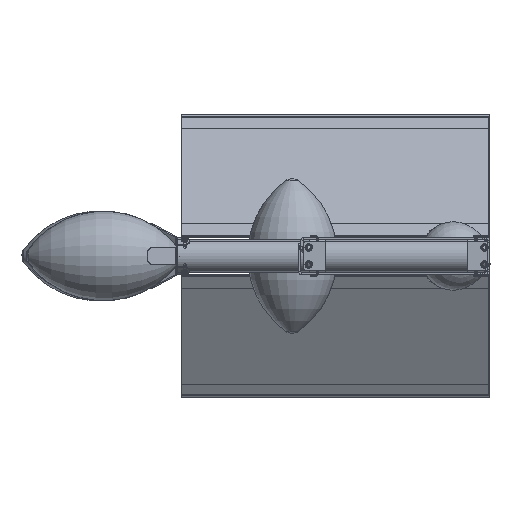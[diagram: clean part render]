
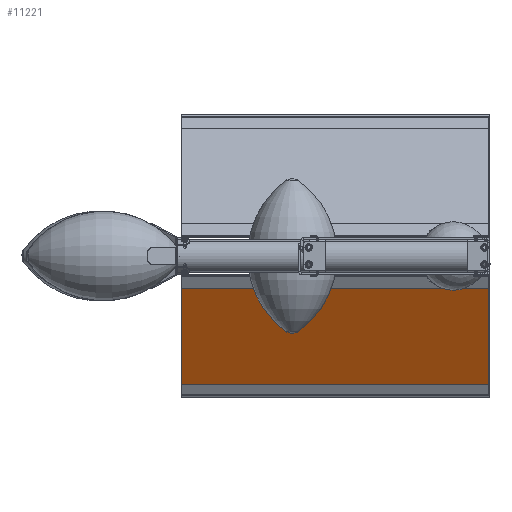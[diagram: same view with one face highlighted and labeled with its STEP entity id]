
A CAD part, left-side view. The second image highlights one B-rep face of the part: STEP entity #11221.
In plain terms, the highlighted planar face has unit normal (-0.866, 0, -0.5) as drawn and (0, 1, 0) by its records, which use the part's own axes.
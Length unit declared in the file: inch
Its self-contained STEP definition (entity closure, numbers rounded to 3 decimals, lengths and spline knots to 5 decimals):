
#11162 = VERTEX_POINT ( 'NONE', #24243 ) ;
#11167 = VERTEX_POINT ( 'NONE', #24236 ) ;
#11169 = EDGE_CURVE ( 'NONE', #11170, #11167, #24235, .T. ) ;
#11170 = VERTEX_POINT ( 'NONE', #24231 ) ;
#11197 = ORIENTED_EDGE ( 'NONE', *, *, #11169, .T. ) ;
#11198 = ORIENTED_EDGE ( 'NONE', *, *, #11228, .T. ) ;
#11199 = ORIENTED_EDGE ( 'NONE', *, *, #11211, .T. ) ;
#11200 = ORIENTED_EDGE ( 'NONE', *, *, #11219, .T. ) ;
#11211 = EDGE_CURVE ( 'NONE', #11226, #11162, #24315, .T. ) ;
#11219 = EDGE_CURVE ( 'NONE', #11162, #11170, #24296, .T. ) ;
#11221 = ADVANCED_FACE ( 'NONE', ( #24292 ), #24291, .T. ) ;
#11222 = EDGE_LOOP ( 'NONE', ( #11197, #11198, #11199, #11200 ) ) ;
#11226 = VERTEX_POINT ( 'NONE', #24344 ) ;
#11228 = EDGE_CURVE ( 'NONE', #11167, #11226, #24343, .T. ) ;
#24231 = CARTESIAN_POINT ( 'NONE',  ( -9., 0.09, -4. ) ) ;
#24232 = DIRECTION ( 'NONE',  ( 0., 0., 1. ) ) ;
#24233 = VECTOR ( 'NONE', #24232, 39.37008 ) ;
#24234 = CARTESIAN_POINT ( 'NONE',  ( -9., 0.09, -4. ) ) ;
#24235 = LINE ( 'NONE', #24234, #24233 ) ;
#24236 = CARTESIAN_POINT ( 'NONE',  ( -9., 0.09, 4. ) ) ;
#24243 = CARTESIAN_POINT ( 'NONE',  ( 9., 0.09, -4. ) ) ;
#24287 = DIRECTION ( 'NONE',  ( 0., 0., 1. ) ) ;
#24288 = DIRECTION ( 'NONE',  ( 0., 1., 0. ) ) ;
#24289 = CARTESIAN_POINT ( 'NONE',  ( -9., 0.09, 4. ) ) ;
#24290 = AXIS2_PLACEMENT_3D ( 'NONE', #24289, #24288, #24287 ) ;
#24291 = PLANE ( 'NONE',  #24290 ) ;
#24292 = FACE_OUTER_BOUND ( 'NONE', #11222, .T. ) ;
#24293 = DIRECTION ( 'NONE',  ( -1., 0., 0. ) ) ;
#24294 = VECTOR ( 'NONE', #24293, 39.37008 ) ;
#24295 = CARTESIAN_POINT ( 'NONE',  ( -9., 0.09, -4. ) ) ;
#24296 = LINE ( 'NONE', #24295, #24294 ) ;
#24307 = DIRECTION ( 'NONE',  ( 0., 0., -1. ) ) ;
#24308 = VECTOR ( 'NONE', #24307, 39.37008 ) ;
#24309 = CARTESIAN_POINT ( 'NONE',  ( 9., 0.09, -4. ) ) ;
#24315 = LINE ( 'NONE', #24309, #24308 ) ;
#24340 = DIRECTION ( 'NONE',  ( 1., 0., 0. ) ) ;
#24341 = VECTOR ( 'NONE', #24340, 39.37008 ) ;
#24342 = CARTESIAN_POINT ( 'NONE',  ( -9., 0.09, 4. ) ) ;
#24343 = LINE ( 'NONE', #24342, #24341 ) ;
#24344 = CARTESIAN_POINT ( 'NONE',  ( 9., 0.09, 4. ) ) ;
